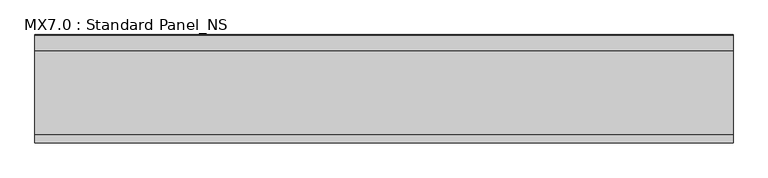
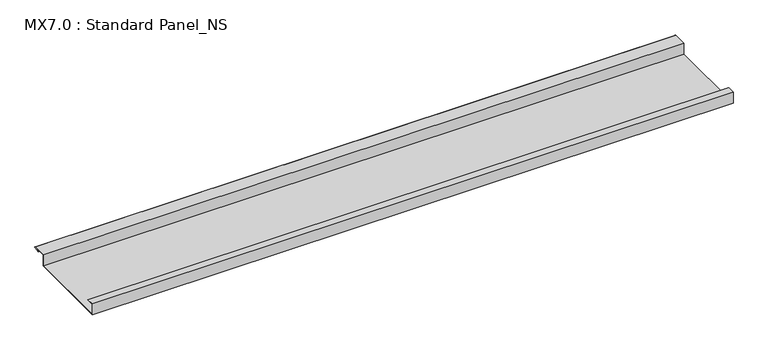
"""IFC4 building model written with IfcOpenShell, lengths in millimetres: proxy geometry, MX7.0 : Standard Panel_NS."""

import ifcopenshell
import ifcopenshell.guid

model = None  # the IFC model being written
_history = None  # IfcOwnerHistory: only IFC2X3 demands one
_inside = {}  # id of a spatial element -> (the spatial element, [elements in it])
_under = {}  # id of a project, library or spatial element -> (it, [spatial elements below it])
_declared = {}  # id of a project -> (the project, [libraries it declares])
_typed = {}  # id of a type object -> (the type object, [elements of that type])
_made_of = {}  # id of a material, layer set ... -> (it, [elements and type objects made of it])


def new_model(schema):
    """Start an empty IFC model of exactly this schema.

    Asked for "IFC4X3", IfcOpenShell would pick the latest addendum, in which some entities
    have other attributes; the version numbers below select the first issue.
    IFC2X3 requires an IfcOwnerHistory on every rooted entity: one is made here for all.
    """
    global model, _history
    if schema == "IFC4X3":
        model = ifcopenshell.file(schema_version=(4, 3, 0, 0))
    else:
        model = ifcopenshell.file(schema=schema)
    _inside.clear()
    _under.clear()
    _declared.clear()
    _typed.clear()
    _made_of.clear()
    _history = None
    if model.schema == "IFC2X3":
        org = make("IfcOrganization", Name="unknown")
        user = make(
            "IfcPersonAndOrganization",
            ThePerson=make("IfcPerson", FamilyName="unknown"),
            TheOrganization=org,
        )
        app = make(
            "IfcApplication",
            ApplicationDeveloper=org,
            Version="unknown",
            ApplicationFullName="unknown",
            ApplicationIdentifier="unknown",
        )
        _history = make(
            "IfcOwnerHistory",
            OwningUser=user,
            OwningApplication=app,
            ChangeAction="ADDED",
            CreationDate=0,
        )
    return model


def make(cls, **values):
    """One entity of the class cls with the attributes given. An attribute that is None is left unset."""
    return model.create_entity(
        cls, **{name: value for name, value in values.items() if value is not None}
    )


def rooted(cls, **values):
    """An entity with a GlobalId (a new one), such as an element, a storey or a relation."""
    return make(cls, GlobalId=ifcopenshell.guid.new(), OwnerHistory=_history, **values)


def si_unit(unit_type, name, prefix=None):
    """IfcSIUnit, for example si_unit("LENGTHUNIT", "METRE", prefix="MILLI")."""
    return make("IfcSIUnit", UnitType=unit_type, Prefix=prefix, Name=name)


def assignment(units):
    """IfcUnitAssignment: the units of a project."""
    return None if units is None else make("IfcUnitAssignment", Units=units)


def point(xyz):
    """IfcCartesianPoint."""
    return None if xyz is None else make("IfcCartesianPoint", Coordinates=xyz)


def direction(xyz):
    """IfcDirection."""
    return None if xyz is None else make("IfcDirection", DirectionRatios=xyz)


def frame(location, z_axis=None, x_axis=None):
    """IfcAxis2Placement3D, a coordinate frame: its origin and axes. An axis left out is left unset."""
    return make(
        "IfcAxis2Placement3D",
        Location=point(location),
        Axis=direction(z_axis),
        RefDirection=direction(x_axis),
    )


def frame_2d(location, x_axis=None):
    """IfcAxis2Placement2D, a coordinate frame in the plane: its origin and x axis."""
    return make(
        "IfcAxis2Placement2D", Location=point(location), RefDirection=direction(x_axis)
    )


def origin():
    """The frame at (0, 0, 0) with its axes left unset."""
    return frame((0.0, 0.0, 0.0))


def place(relative_to, where):
    """IfcLocalPlacement: puts the frame where relative to a parent placement (None: the world)."""
    return make(
        "IfcLocalPlacement", PlacementRelTo=relative_to, RelativePlacement=where
    )


def context(
    kind, dimensions, precision=None, world=None, true_north=None, identifier=None
):
    """IfcGeometricRepresentationContext, for example the 3D "Model" context."""
    return make(
        "IfcGeometricRepresentationContext",
        ContextIdentifier=identifier,
        ContextType=kind,
        CoordinateSpaceDimension=dimensions,
        Precision=precision,
        WorldCoordinateSystem=world,
        TrueNorth=true_north,
    )


def project(units=None, contexts=None):
    """IfcProject with its units and contexts."""
    return rooted(
        "IfcProject",
        Name="project",
        RepresentationContexts=contexts,
        UnitsInContext=assignment(units),
    )


def spatial(cls, under=None, at=None, **own):
    """A site, building, storey or space (cls), placed at a placement, below another one or the project."""
    s = rooted(cls, ObjectPlacement=at, **own)
    if under is not None:
        _under.setdefault(under.id(), (under, []))[1].append(s)
    return s


def polyline(points):
    """IfcPolyline through the points."""
    return make("IfcPolyline", Points=[point(p) for p in points])


def circle_curve(where, radius):
    """IfcCircle in the frame where."""
    return make("IfcCircle", Position=where, Radius=radius)


def trimmed(basis, trim1, trim2, sense, master):
    """IfcTrimmedCurve: the piece of a basis curve between two trims."""
    return make(
        "IfcTrimmedCurve",
        BasisCurve=basis,
        Trim1=trim1,
        Trim2=trim2,
        SenseAgreement=sense,
        MasterRepresentation=master,
    )


def segment(curve, same_sense, transition):
    """IfcCompositeCurveSegment."""
    return make(
        "IfcCompositeCurveSegment",
        Transition=transition,
        SameSense=same_sense,
        ParentCurve=curve,
    )


def composite_curve(segments, self_intersect=None):
    """IfcCompositeCurve: segments joined end to end."""
    return make("IfcCompositeCurve", Segments=segments, SelfIntersect=self_intersect)


def outline(outer, holes=None, kind="AREA"):
    """IfcArbitraryClosedProfileDef: a profile drawn as a closed curve; with holes, ...WithVoids."""
    if holes is None:
        return make("IfcArbitraryClosedProfileDef", ProfileType=kind, OuterCurve=outer)
    return make(
        "IfcArbitraryProfileDefWithVoids",
        ProfileType=kind,
        OuterCurve=outer,
        InnerCurves=holes,
    )


def extrude(swept, where, along, depth):
    """IfcExtrudedAreaSolid: the profile swept, set in the frame where, extruded along a direction by depth."""
    return make(
        "IfcExtrudedAreaSolid",
        SweptArea=swept,
        Position=where,
        ExtrudedDirection=direction(along),
        Depth=depth,
    )


def shape(context_of_items, identifier, shape_type, items):
    """IfcShapeRepresentation: the items that make up one representation, for example the "Body"."""
    return make(
        "IfcShapeRepresentation",
        ContextOfItems=context_of_items,
        RepresentationIdentifier=identifier,
        RepresentationType=shape_type,
        Items=items,
    )


def source(mapping_origin, context_of_items, identifier, shape_type, items):
    """IfcRepresentationMap: a shape defined once, which mapped items show again and again."""
    return make(
        "IfcRepresentationMap",
        MappingOrigin=mapping_origin,
        MappedRepresentation=shape(context_of_items, identifier, shape_type, items),
    )


def transform(
    local_origin,
    x_axis=None,
    y_axis=None,
    z_axis=None,
    scale=None,
    scale2=None,
    scale3=None,
    uniform=True,
):
    """IfcCartesianTransformationOperator3D, or its non-uniform kind. x_axis, y_axis, z_axis: its Axis1, 2, 3."""
    if uniform:
        return make(
            "IfcCartesianTransformationOperator3D",
            Axis1=direction(x_axis),
            Axis2=direction(y_axis),
            LocalOrigin=point(local_origin),
            Scale=scale,
            Axis3=direction(z_axis),
        )
    return make(
        "IfcCartesianTransformationOperator3DnonUniform",
        Axis1=direction(x_axis),
        Axis2=direction(y_axis),
        LocalOrigin=point(local_origin),
        Scale=scale,
        Axis3=direction(z_axis),
        Scale2=scale2,
        Scale3=scale3,
    )


def mapped(mapping_source, mapping_target):
    """IfcMappedItem: shows the shape of a source again, moved by a transform."""
    return make(
        "IfcMappedItem", MappingSource=mapping_source, MappingTarget=mapping_target
    )


def made_of(thing, what):
    """Note that an element or type object is made of a material, layer set ...; save() writes the relation."""
    if what is not None:
        _made_of.setdefault(what.id(), (what, []))[1].append(thing)
    return thing


def element(
    cls,
    number,
    at=None,
    inside=None,
    cuts=None,
    type_object=None,
    material=None,
    context=None,
    identifier="Body",
    shape_type=None,
    held_by="IfcProductDefinitionShape",
    body=None,
    shapes=None,
    **own,
):
    """One element of the class cls, such as IfcWall. Its Tag is "e" and its number.

    at: its placement. inside: the storey or other place that contains it. cuts: it is an
    opening in that element (IfcRelVoidsElement). A single representation is given by context,
    identifier, shape_type and body (its items); several are given by shapes. held_by: the class
    of the entity that holds the representations. save() writes the other relations.
    """
    e = rooted(cls, Tag="e%d" % number, ObjectPlacement=at, **own)
    if body is not None:
        shapes = [shape(context, identifier, shape_type, body)]
    if shapes is not None:
        e.Representation = make(held_by, Representations=shapes)
    if inside is not None:
        _inside.setdefault(inside.id(), (inside, []))[1].append(e)
    if cuts is not None:
        rooted(
            "IfcRelVoidsElement", RelatingBuildingElement=cuts, RelatedOpeningElement=e
        )
    if type_object is not None:
        _typed.setdefault(type_object.id(), (type_object, []))[1].append(e)
    return made_of(e, material)


def aggregate(whole, parts):
    """IfcRelAggregates: a whole, such as a stair, and the parts it consists of."""
    return rooted("IfcRelAggregates", RelatingObject=whole, RelatedObjects=parts)


def save(model, path):
    """Write the relations noted so far, then the file.

    IfcRelAggregates (storeys below a building ...), IfcRelContainedInSpatialStructure (elements
    in a storey), IfcRelDefinesByType, IfcRelAssociatesMaterial and IfcRelDeclares: one each for
    every whole, place, type object, material and project.
    """
    for whole, parts in _under.values():
        aggregate(whole, parts)
    for where, things in _inside.values():
        rooted(
            "IfcRelContainedInSpatialStructure",
            RelatedElements=things,
            RelatingStructure=where,
        )
    for kind, things in _typed.values():
        rooted("IfcRelDefinesByType", RelatedObjects=things, RelatingType=kind)
    for what, things in _made_of.values():
        rooted("IfcRelAssociatesMaterial", RelatedObjects=things, RelatingMaterial=what)
    for by, libraries in _declared.values():
        rooted("IfcRelDeclares", RelatingContext=by, RelatedDefinitions=libraries)
    model.write(path)


def mx7_0_standard_panel_ns_ed4f422e(model_context):
    return source(origin(), model_context, "Body", "SweptSolid", [
        extrude(outline(composite_curve([segment(polyline([(0.0, 0.0), (25.0, 0.0), (25.0, -1.0), (1.0, -1.0), (1.0, -37.0), (279.0, -37.0), (279.0, 1.0), (325.0510156, 1.0)]), True, "CONTINUOUS"), segment(trimmed(circle_curve(frame_2d((324.3094696, -0.9153551)), 2.0538928), [point((325.0510156, 1.0))], [point((325.1748462, -2.778041))], False, "CARTESIAN"), True, "CONTINUOUS"), segment(polyline([(325.1748462, -2.778041), (308.7874714, -5.923107), (308.5989911, -4.94103), (324.8448691, -1.8231201)]), True, "CONTINUOUS"), segment(trimmed(circle_curve(frame_2d((324.3094696, -0.9153551)), 1.0538928), [point((324.8448691, -1.8231201))], [point((324.8317866, 0.0))], True, "CARTESIAN"), True, "CONTINUOUS"), segment(polyline([(324.8317866, 0.0), (280.0, 0.0), (280.0, -38.0), (0.0, -38.0), (0.0, 0.0)]), True, "CONTINUOUS")], self_intersect=False)), frame((0.0, 0.0, 0.0), z_axis=(1.0, 0.0, 0.0), x_axis=(0.0, 1.0, 0.0)), (0.0, 0.0, 1.0), 2100.0),
    ])


if __name__ == "__main__":
    model = new_model("IFC4")
    model_context = context("Model", 3, world=origin())
    ifc_project = project(units=[si_unit("LENGTHUNIT", "METRE", prefix="MILLI")], contexts=[model_context])
    site = spatial("IfcSite", under=ifc_project)
    building = spatial("IfcBuilding", under=site)
    placement = place(None, origin())
    mx7_0_standard_panel_ns_shape = mx7_0_standard_panel_ns_ed4f422e(model_context)
    element("IfcBuildingElementProxy", 1, Name="MX7.0 : Standard Panel_NS", ObjectType="MX7.0 : Standard Panel_NS", at=placement, inside=building, context=model_context, shape_type="MappedRepresentation", body=[
        mapped(mx7_0_standard_panel_ns_shape, transform((0.0, 0.0, 0.0), x_axis=(1.0, 0.0, 0.0), y_axis=(0.0, 1.0, 0.0), z_axis=(0.0, 0.0, 1.0))),
    ])
    save(model, "model.ifc")
